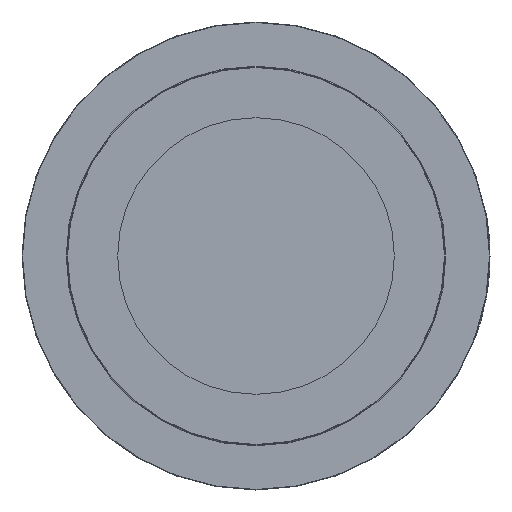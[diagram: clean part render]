
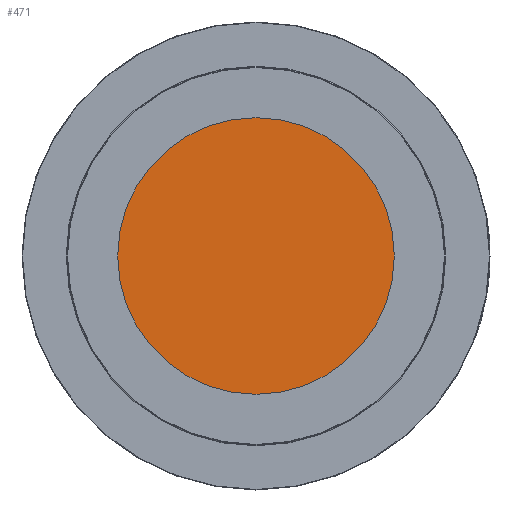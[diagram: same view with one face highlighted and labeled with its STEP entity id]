
A CAD part, left-side view. The second image highlights one B-rep face of the part: STEP entity #471.
In plain terms, the highlighted planar face has unit normal (-1, 0, 0).
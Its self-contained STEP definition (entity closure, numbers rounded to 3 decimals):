
#471 = ADVANCED_FACE( '', ( #1061 ), #1062, .T. );
#1061 = FACE_OUTER_BOUND( '', #2849, .T. );
#1062 = PLANE( '', #2850 );
#2849 = EDGE_LOOP( '', ( #5021 ) );
#2850 = AXIS2_PLACEMENT_3D( '', #5022, #5023, #5024 );
#5021 = ORIENTED_EDGE( '', *, *, #6265, .T. );
#5022 = CARTESIAN_POINT( '', ( -0.664, 0., 0. ) );
#5023 = DIRECTION( '', ( -1., 0., 0. ) );
#5024 = DIRECTION( '', ( 0., 0., 1. ) );
#6265 = EDGE_CURVE( '', #7316, #7316, #7317, .T. );
#7316 = VERTEX_POINT( '', #10192 );
#7317 = CIRCLE( '', #10193, 138.85 );
#10192 = CARTESIAN_POINT( '', ( -0.664, 0., 138.85 ) );
#10193 = AXIS2_PLACEMENT_3D( '', #10590, #10591, #10592 );
#10590 = CARTESIAN_POINT( '', ( -0.664, 0., 0. ) );
#10591 = DIRECTION( '', ( -1., 0., 0. ) );
#10592 = DIRECTION( '', ( 0., 0., 1. ) );
